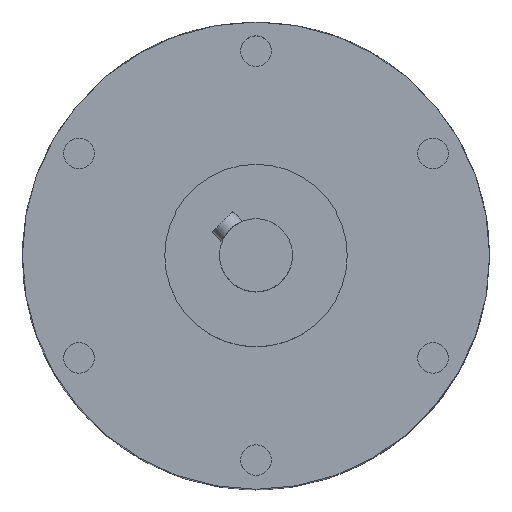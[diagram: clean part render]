
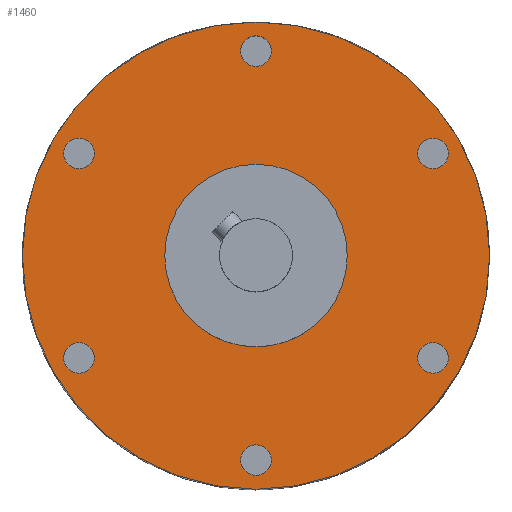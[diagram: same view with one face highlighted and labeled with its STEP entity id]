
A CAD part, top view. The second image highlights one B-rep face of the part: STEP entity #1460.
In plain terms, the highlighted planar face has unit normal (0, 0, 1).
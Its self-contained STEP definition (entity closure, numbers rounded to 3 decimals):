
#237=PLANE('',#1604);
#307=FACE_BOUND('',#480,.T.);
#308=FACE_BOUND('',#481,.T.);
#309=FACE_BOUND('',#482,.T.);
#310=FACE_BOUND('',#483,.T.);
#311=FACE_BOUND('',#484,.T.);
#312=FACE_BOUND('',#485,.T.);
#313=FACE_BOUND('',#486,.T.);
#314=FACE_BOUND('',#487,.T.);
#480=EDGE_LOOP('',(#1078));
#481=EDGE_LOOP('',(#1079));
#482=EDGE_LOOP('',(#1080));
#483=EDGE_LOOP('',(#1081));
#484=EDGE_LOOP('',(#1082));
#485=EDGE_LOOP('',(#1083));
#486=EDGE_LOOP('',(#1084));
#487=EDGE_LOOP('',(#1085));
#553=CIRCLE('',#1523,2.1);
#555=CIRCLE('',#1527,2.1);
#557=CIRCLE('',#1531,2.1);
#559=CIRCLE('',#1535,2.1);
#562=CIRCLE('',#1540,2.1);
#566=CIRCLE('',#1547,2.1);
#593=CIRCLE('',#1603,32.);
#594=CIRCLE('',#1605,12.5);
#643=VERTEX_POINT('',#2197);
#645=VERTEX_POINT('',#2203);
#647=VERTEX_POINT('',#2209);
#649=VERTEX_POINT('',#2215);
#652=VERTEX_POINT('',#2223);
#656=VERTEX_POINT('',#2234);
#697=VERTEX_POINT('',#2423);
#698=VERTEX_POINT('',#2426);
#775=EDGE_CURVE('',#643,#643,#553,.T.);
#777=EDGE_CURVE('',#645,#645,#555,.T.);
#779=EDGE_CURVE('',#647,#647,#557,.T.);
#781=EDGE_CURVE('',#649,#649,#559,.T.);
#784=EDGE_CURVE('',#652,#652,#562,.T.);
#788=EDGE_CURVE('',#656,#656,#566,.T.);
#841=EDGE_CURVE('',#697,#697,#593,.T.);
#842=EDGE_CURVE('',#698,#698,#594,.T.);
#1078=ORIENTED_EDGE('',*,*,#775,.T.);
#1079=ORIENTED_EDGE('',*,*,#777,.T.);
#1080=ORIENTED_EDGE('',*,*,#779,.T.);
#1081=ORIENTED_EDGE('',*,*,#781,.T.);
#1082=ORIENTED_EDGE('',*,*,#784,.T.);
#1083=ORIENTED_EDGE('',*,*,#788,.T.);
#1084=ORIENTED_EDGE('',*,*,#841,.T.);
#1085=ORIENTED_EDGE('',*,*,#842,.F.);
#1460=ADVANCED_FACE('',(#307,#308,#309,#310,#311,#312,#313,#314),#237,.T.);
#1523=AXIS2_PLACEMENT_3D('',#2198,#1723,#1724);
#1527=AXIS2_PLACEMENT_3D('',#2204,#1731,#1732);
#1531=AXIS2_PLACEMENT_3D('',#2210,#1739,#1740);
#1535=AXIS2_PLACEMENT_3D('',#2216,#1747,#1748);
#1540=AXIS2_PLACEMENT_3D('',#2224,#1757,#1758);
#1547=AXIS2_PLACEMENT_3D('',#2235,#1771,#1772);
#1603=AXIS2_PLACEMENT_3D('',#2424,#1907,#1908);
#1604=AXIS2_PLACEMENT_3D('',#2425,#1909,#1910);
#1605=AXIS2_PLACEMENT_3D('',#2427,#1911,#1912);
#1723=DIRECTION('center_axis',(0.,0.,-1.));
#1724=DIRECTION('ref_axis',(-1.,0.,0.));
#1731=DIRECTION('center_axis',(0.,0.,-1.));
#1732=DIRECTION('ref_axis',(-1.,0.,0.));
#1739=DIRECTION('center_axis',(0.,0.,-1.));
#1740=DIRECTION('ref_axis',(-1.,0.,0.));
#1747=DIRECTION('center_axis',(0.,0.,-1.));
#1748=DIRECTION('ref_axis',(-1.,0.,0.));
#1757=DIRECTION('center_axis',(0.,0.,-1.));
#1758=DIRECTION('ref_axis',(-1.,0.,0.));
#1771=DIRECTION('center_axis',(0.,0.,-1.));
#1772=DIRECTION('ref_axis',(-1.,0.,0.));
#1907=DIRECTION('center_axis',(0.,0.,1.));
#1908=DIRECTION('ref_axis',(1.,0.,0.));
#1909=DIRECTION('center_axis',(0.,0.,1.));
#1910=DIRECTION('ref_axis',(1.,0.,0.));
#1911=DIRECTION('center_axis',(0.,0.,1.));
#1912=DIRECTION('ref_axis',(1.,0.,0.));
#2197=CARTESIAN_POINT('',(-22.149,-14.,22.5));
#2198=CARTESIAN_POINT('Origin',(-24.249,-14.,22.5));
#2203=CARTESIAN_POINT('',(2.1,28.,22.5));
#2204=CARTESIAN_POINT('Origin',(0.,28.,22.5));
#2209=CARTESIAN_POINT('',(26.349,-14.,22.5));
#2210=CARTESIAN_POINT('Origin',(24.249,-14.,22.5));
#2215=CARTESIAN_POINT('',(2.1,-28.,22.5));
#2216=CARTESIAN_POINT('Origin',(0.,-28.,22.5));
#2223=CARTESIAN_POINT('',(26.349,14.,22.5));
#2224=CARTESIAN_POINT('Origin',(24.249,14.,22.5));
#2234=CARTESIAN_POINT('',(-22.149,14.,22.5));
#2235=CARTESIAN_POINT('Origin',(-24.249,14.,22.5));
#2423=CARTESIAN_POINT('',(32.,0.,22.5));
#2424=CARTESIAN_POINT('Origin',(0.,0.,22.5));
#2425=CARTESIAN_POINT('Origin',(12.5,0.,22.5));
#2426=CARTESIAN_POINT('',(12.5,0.,22.5));
#2427=CARTESIAN_POINT('Origin',(0.,0.,22.5));
